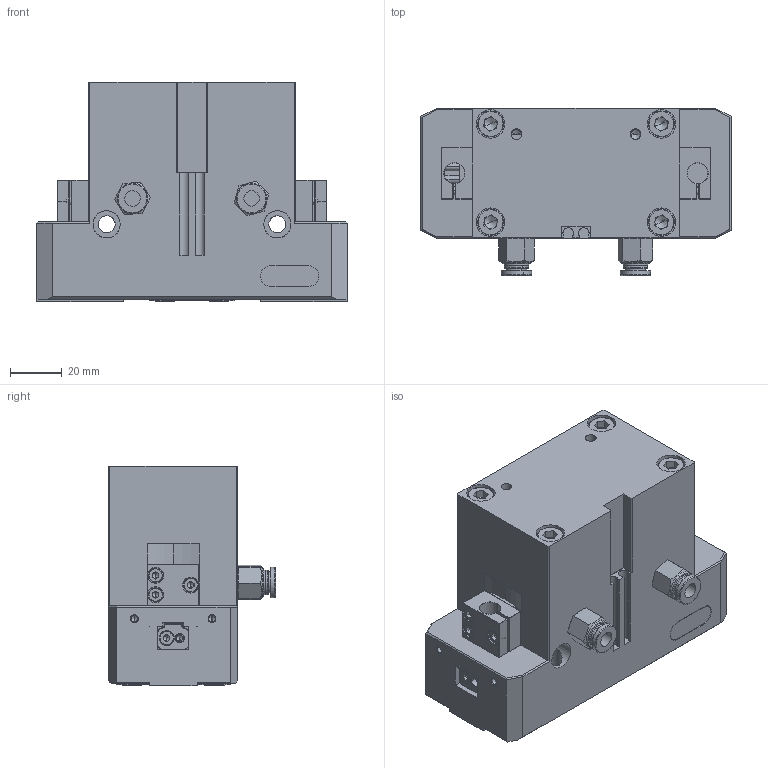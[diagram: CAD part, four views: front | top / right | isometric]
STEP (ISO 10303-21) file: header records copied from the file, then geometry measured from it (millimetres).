
FILE_DESCRIPTION (( 'STEP AP214' ), '1' );
FILE_NAME ('FPT-100B-1-S.STEP', '2024-09-04T01:54:46', ( '' ), ( '' ), 'SwSTEP 2.0', 'SolidWorks 2018', '' );
FILE_SCHEMA (( 'AUTOMOTIVE_DESIGN' ));
Length unit declared in the file: millimetre
Products named in the file (1): FPT-100B-1-S
Bounding box: 120 x 64.55 x 85 mm (x, y, z)
Volume: 367692.9 mm3; surface area: 70719.4 mm2
Topology: 1 solids, 28 shells, 1280 faces, 3089 edges, 1871 vertices
Faces by surface type: plane 650, cylinder 337, cone 259, torus 34
Entity records: 44267 total; most frequent: CARTESIAN_POINT 8779, DIRECTION 6545, ORIENTED_EDGE 6030, EDGE_CURVE 3015, AXIS2_PLACEMENT_3D 2385, VERTEX_POINT 1871, VECTOR 1775, LINE 1775
